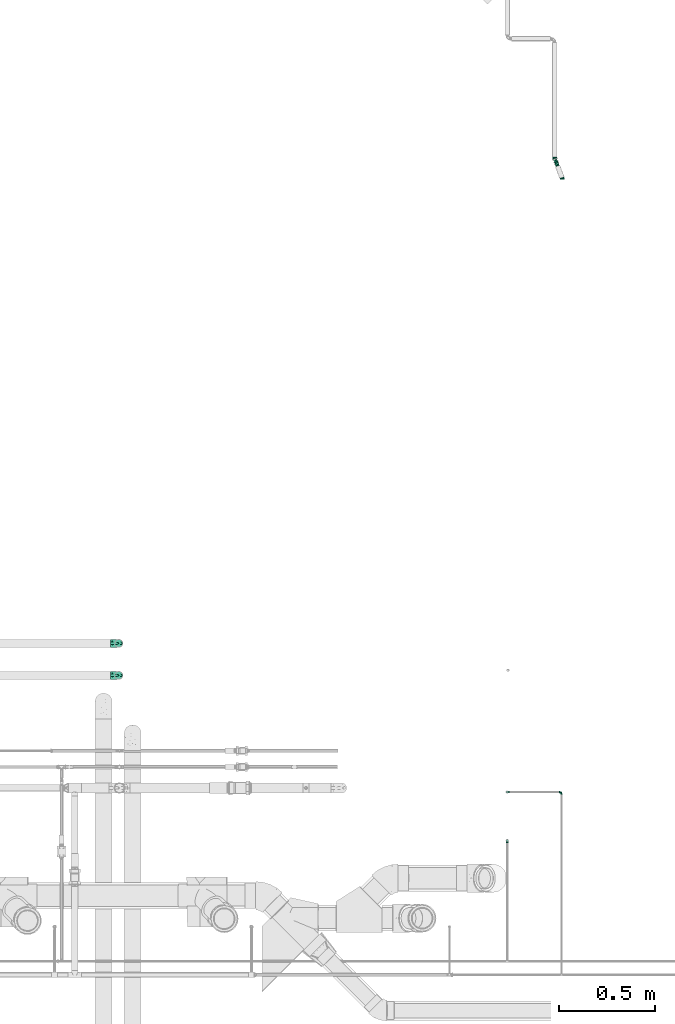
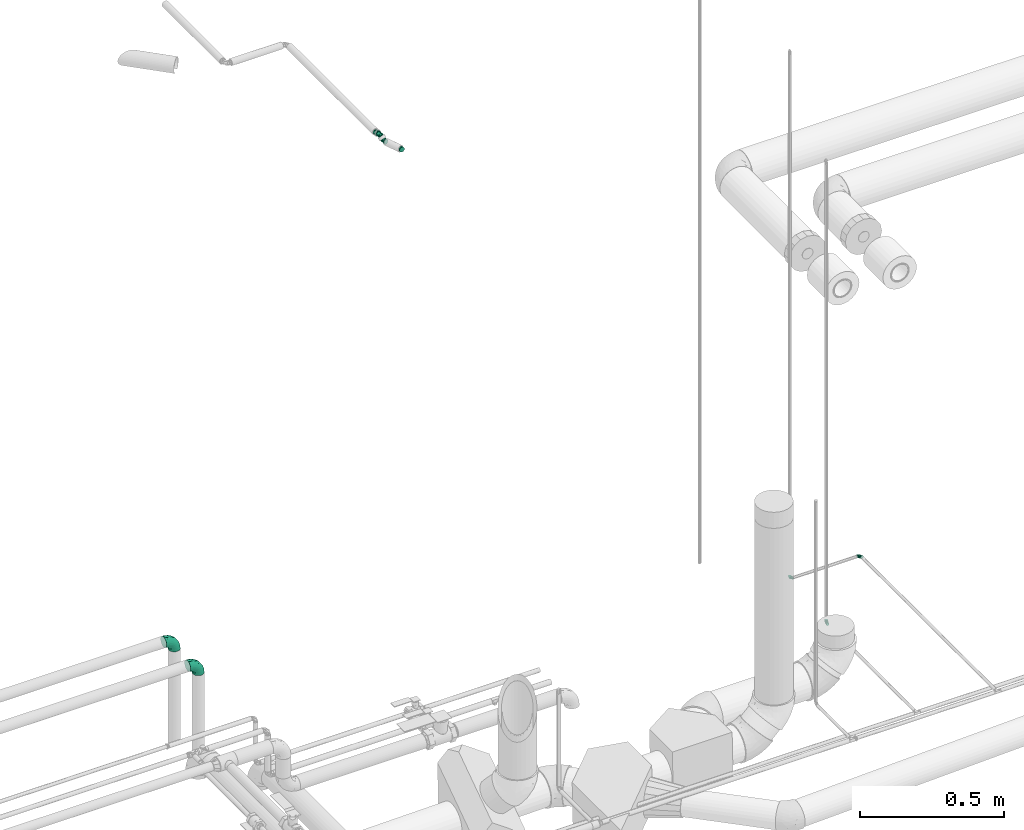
# One storey, part 96 of 156: 9 flow fittings.
"""IFC2X3 building model written with IfcOpenShell, lengths in millimetres."""

from ifc_helpers import new_model, entity, si_unit, converted_unit, derived_unit, direction, frame, origin_with_axes, place, context, subcontext, project, spatial, open_shell, surface_model, source, transform, mapped, type_object, element, save


model = new_model("IFC2X3")

# Units and contexts
model_context = context("Model", 3, precision=0.01, world=frame((0.0, 4.29681676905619e-09, 0.0)), true_north=direction((4.01073788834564e-13, 1.0)))
plan_context = context("Plan", 3, precision=0.01, world=frame((0.0, 4.29681676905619e-09, 0.0)), true_north=direction((4.01073788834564e-13, 1.0)))
body_context = subcontext(model_context, "Body", "Model", "MODEL_VIEW")
ifc_project = project(units=[converted_unit("PLANEANGLEUNIT", "DEGREE", entity("IfcPositiveLengthMeasure", 0.0174532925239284), si_unit("PLANEANGLEUNIT", "RADIAN"), dimensions=[0, 0, 0, 0, 0, 0, 0]), si_unit("AREAUNIT", "SQUARE_METRE"), si_unit("LENGTHUNIT", "METRE", prefix="MILLI"), si_unit("MASSUNIT", "GRAM", prefix="KILO"), si_unit("POWERUNIT", "WATT"), si_unit("PRESSUREUNIT", "PASCAL", prefix="KILO"), si_unit("FORCEUNIT", "NEWTON", prefix="KILO"), si_unit("ELECTRICVOLTAGEUNIT", "VOLT"), si_unit("ELECTRICCURRENTUNIT", "AMPERE"), si_unit("THERMODYNAMICTEMPERATUREUNIT", "DEGREE_CELSIUS"), si_unit("TIMEUNIT", "SECOND"), si_unit("VOLUMEUNIT", "CUBIC_METRE"), derived_unit("LINEARVELOCITYUNIT", [(si_unit("LENGTHUNIT", "METRE"), 1), (si_unit("TIMEUNIT", "SECOND"), -1)]), derived_unit("VOLUMETRICFLOWRATEUNIT", [(si_unit("VOLUMEUNIT", "CUBIC_METRE"), 1), (si_unit("TIMEUNIT", "SECOND"), -1)]), derived_unit("THERMALTRANSMITTANCEUNIT", [(si_unit("POWERUNIT", "WATT"), 1), (si_unit("THERMODYNAMICTEMPERATUREUNIT", "KELVIN"), -1), (si_unit("AREAUNIT", "SQUARE_METRE"), -1)]), derived_unit("SOUNDPRESSUREUNIT", [(si_unit("PRESSUREUNIT", "PASCAL"), 1)])], contexts=[model_context, plan_context])

# Site, building, storey
site_placement = place(None, frame((0.0, -4.29681676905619e-09, 0.0), z_axis=(0.0, 0.0, 1.0), x_axis=(1.0, 0.0, 0.0)))
site = spatial("IfcSite", under=ifc_project, at=site_placement, CompositionType="ELEMENT")
building_placement = place(site_placement, frame((0.0, 4.29681676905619e-09, 0.0), z_axis=(0.0, 0.0, 1.0), x_axis=(1.0, 0.0, 0.0)))
building = spatial("IfcBuilding", under=site, at=building_placement, Name="mc-building", CompositionType="ELEMENT")
storey_placement = place(building_placement, frame((0.0, 0.0, 205200.0), z_axis=(0.0, 0.0, 1.0), x_axis=(1.0, 0.0, 0.0)))
storey = spatial("IfcBuildingStorey", under=building, at=storey_placement, Name="Nivå D + 1,2 m", CompositionType="ELEMENT", Elevation=205200.0)

# Flow fittings
pipe_fitting_type_1 = type_object("IfcPipeFittingType", Name="magi_pipe_fe_elbow_short_001", PredefinedType="BEND")
shared_shape_1 = source(origin_with_axes(), body_context, "Body", "SurfaceModel", [
    surface_model("IfcShellBasedSurfaceModel", [(-42.4, 10.6, -18.35974), (-42.4, 5.48696, -20.47763), (-42.4, 0.0, -21.2), (-42.4, 14.99066, -14.99066), (-42.4, 20.47763, -5.48696), (-42.4, 18.35974, -10.6), (-42.4, -14.99066, 14.99066), (-42.4, -21.2, 0.0), (-42.4, -10.6, -18.35974), (-42.4, -14.99066, -14.99066), (-42.4, -5.48696, -20.47763), (-42.4, -18.35974, -10.6), (-42.4, -20.47763, -5.48696), (-42.4, 10.6, 18.35974), (-42.4, 20.47763, 5.48696), (-42.4, 18.35974, 10.6), (-42.4, 14.99066, 14.99066), (-42.4, 5.48696, 20.47763), (-42.4, 0.0, 21.2), (-42.4, -20.47763, 5.48696), (-42.4, -18.35974, 10.6), (-42.4, -10.6, 18.35974), (-42.4, -5.48696, 20.47763), (-42.4, 21.2, 0.0), (0.0, 42.4, -21.2), (-5.48696, 42.4, -20.47763), (-10.6, 42.4, -18.35974), (-14.99066, 42.4, -14.99066), (-18.35974, 42.4, -10.6), (-20.47763, 42.4, -5.48696), (21.2, 42.4, 0.0), (5.48696, 42.4, -20.47763), (14.99066, 42.4, -14.99066), (10.6, 42.4, -18.35974), (18.35974, 42.4, -10.6), (20.47763, 42.4, -5.48696), (14.99066, 42.4, 14.99066), (-20.47763, 42.4, 5.48696), (-10.6, 42.4, 18.35974), (-14.99066, 42.4, 14.99066), (-18.35974, 42.4, 10.6), (-5.48696, 42.4, 20.47763), (0.0, 42.4, 21.2), (18.35974, 42.4, 10.6), (20.47763, 42.4, 5.48696), (5.48696, 42.4, 20.47763), (10.6, 42.4, 18.35974), (-21.2, 42.4, 0.0), (-31.10239, -16.47009, 11.90111), (-27.83957, -12.231, 15.79732), (-30.23067, -18.77937, 0.0), (-18.74048, -13.50096, 10.69998), (-28.17586, -18.50359, 6.61185), (18.50359, 28.17586, 6.61185), (14.95929, 16.60735, 5.43468), (16.35874, 18.06133, 0.0), (-20.72313, 33.83635, 9.21426), (-17.70981, 33.00599, 13.92769), (-31.16033, -8.01664, 19.07348), (-32.38682, -2.80842, 20.83743), (-29.68688, 3.24967, 21.16387), (-7.74467, -9.46536, 0.0), (-16.60735, -14.95929, 5.43468), (-18.06133, -16.35874, 0.0), (-16.37932, -5.14532, 17.61254), (-21.10659, -0.19025, 20.54817), (-1.82445, -3.58377, 9.55223), (-0.35533, 0.43745, 12.66367), (-7.20655, -5.07682, 13.06146), (-33.14056, 17.6728, 13.91288), (-7.36799, 20.84806, 21.16196), (-15.70315, 15.70315, 20.68489), (-12.62356, 9.26422, 21.0908), (-36.67879, 12.83836, 17.27427), (-7.91358, 36.5686, 19.85759), (-2.90555, 31.71221, 21.14793), (-33.84689, 20.71971, 9.21285), (-33.51649, 22.58113, 4.66115), (-26.3226, 26.3226, 7.92474), (-32.67995, 8.31454, 20.02643), (-5.53379, 14.19921, 20.81623), (-10.53385, 3.88918, 19.79653), (-2.16577, 11.45378, 19.48254), (-3.78693, 3.78693, 17.3328), (12.231, 27.83957, 15.79732), (13.50096, 18.74047, 10.69998), (16.47009, 31.10239, 11.90111), (-22.53806, 14.38475, 19.60876), (-23.29615, 9.08095, 20.82061), (2.80842, 32.38682, 20.83743), (8.01664, 31.16033, 19.07348), (5.14532, 16.37932, 17.61254), (18.77937, 30.23067, 0.0), (-20.80278, 5.19491, 21.19095), (-19.62579, 22.38752, 17.42006), (-29.19336, 14.39093, 17.85259), (-22.31569, 34.20044, 4.54807), (-26.56962, 27.80621, 3.73106), (9.67657, 17.17133, 14.49993), (-24.04026, 31.8, 0.0), (-9.16861, 28.72652, 20.19004), (-12.09761, 21.9456, 20.37969), (-15.36991, 27.40112, 17.818), (-16.88976, 20.52477, 19.2896), (-12.95169, 35.54896, 17.36222), (-17.17133, -9.67657, 14.49993), (-21.98655, 28.10245, 11.99898), (-22.34699, 23.67592, 15.01692), (-27.22822, 22.77969, 11.82161), (0.19025, 21.10658, 20.54817), (4.8276, 7.36347, 13.42842), (-10.06209, -9.46364, 9.95114), (1.25876, -2.7536, 5.73797), (6.43781, 3.77591, 7.40371), (6.57528, 2.20066, 3.17705), (10.91934, 8.84313, 5.00748), (10.64415, 10.99764, 8.89767), (-31.8, 24.04026, 0.0), (-5.71381, -8.43063, 6.15529), (2.57199, -2.57199, 0.0), (9.46536, 7.74467, 0.0), (-17.17133, -9.67657, -14.49993), (-27.83957, -12.231, -15.79732), (-16.37932, -5.14532, -17.61254), (-18.74048, -13.50096, -10.69998), (-33.00599, 17.70981, -13.92769), (-35.54896, 12.95169, -17.36222), (-34.20044, 22.31569, -4.54807), (-28.17586, -18.50359, -6.61185), (-26.3226, 26.3226, -7.92474), (-33.83635, 20.72313, -9.21426), (-16.60735, -14.95929, -5.43468), (-20.52477, 16.88976, -19.2896), (-21.9456, 12.0976, -20.37969), (-27.40112, 15.36991, -17.818), (-12.83836, 36.67879, -17.27427), (-17.6728, 33.14056, -13.91288), (8.01664, 31.16033, -19.07348), (5.14532, 16.37932, -17.61254), (0.19025, 21.10658, -20.54817), (-36.5686, 7.91358, -19.85759), (-31.10239, -16.47009, -11.90111), (-31.16033, -8.01664, -19.07348), (-14.38475, 22.53806, -19.60876), (-8.31454, 32.67995, -20.02643), (-9.08095, 23.29615, -20.82061), (-32.38682, -2.80842, -20.83743), (-20.84806, 7.36799, -21.16196), (-15.70315, 15.70314, -20.68489), (-9.26422, 12.62356, -21.0908), (-31.71221, 2.90555, -21.14793), (-22.58113, 33.51649, -4.66115), (-20.71971, 33.84689, -9.21285), (-28.72652, 9.16861, -20.19004), (-27.80621, 26.56962, -3.73106), (-5.19491, 20.80278, -21.19095), (-22.38752, 19.62579, -17.42006), (-14.39093, 29.19336, -17.85259), (2.80842, 32.38682, -20.83743), (-3.24967, 29.68688, -21.16387), (16.47009, 31.10239, -11.90111), (12.231, 27.83957, -15.79732), (6.57528, 2.20067, -3.17705), (10.91934, 8.84313, -5.00749), (-14.19921, 5.53379, -20.81623), (-3.88918, 10.53385, -19.79653), (-11.45378, 2.16577, -19.48254), (1.25876, -2.7536, -5.73797), (-5.71381, -8.43063, -6.15529), (-1.82445, -3.58377, -9.55223), (13.50096, 18.74048, -10.69998), (18.50359, 28.17586, -6.61185), (14.95929, 16.60735, -5.43468), (-28.10245, 21.98655, -11.99898), (9.67657, 17.17133, -14.49993), (10.64415, 10.99764, -8.89767), (4.8276, 7.36347, -13.42842), (-23.67592, 22.34699, -15.01692), (-22.77969, 27.22822, -11.82161), (-21.10658, -0.19025, -20.54817), (-3.78693, 3.78693, -17.3328), (-7.20655, -5.07682, -13.06146), (-10.06209, -9.46364, -9.95113), (-0.35533, 0.43745, -12.66367), (6.43781, 3.77591, -7.40371)], [open_shell([[[0, 1, 2]], [[3, 0, 2]], [[4, 5, 3]], [[2, 4, 3]], [[6, 2, 7]], [[8, 9, 10]], [[11, 10, 9]], [[12, 7, 11]], [[2, 10, 11]], [[11, 7, 2]], [[6, 4, 2]], [[13, 14, 4]], [[15, 14, 16]], [[4, 6, 13]], [[16, 14, 13]], [[17, 13, 18]], [[19, 20, 7]], [[7, 20, 6]], [[21, 22, 6]], [[18, 6, 22]], [[6, 18, 13]], [[23, 4, 14]], [[24, 25, 26]], [[24, 26, 27]], [[27, 28, 29]], [[27, 29, 24]], [[24, 29, 30]], [[31, 32, 33]], [[31, 24, 32]], [[34, 30, 35]], [[32, 24, 34]], [[24, 30, 34]], [[29, 36, 30]], [[29, 37, 38]], [[39, 37, 40]], [[36, 29, 38]], [[38, 37, 39]], [[41, 42, 38]], [[30, 43, 44]], [[36, 43, 30]], [[36, 45, 46]], [[45, 36, 42]], [[38, 42, 36]], [[37, 29, 47]], [[6, 48, 49]], [[19, 7, 50]], [[51, 48, 52]], [[53, 54, 55]], [[48, 6, 20]], [[19, 52, 20]], [[40, 56, 57]], [[49, 21, 6]], [[49, 58, 21]], [[18, 59, 60]], [[61, 62, 63]], [[58, 64, 65]], [[66, 67, 68]], [[15, 16, 69]], [[70, 71, 72]], [[13, 73, 16]], [[22, 59, 18]], [[41, 74, 75]], [[18, 60, 17]], [[15, 69, 76]], [[16, 73, 69]], [[23, 14, 77]], [[14, 15, 76]], [[77, 76, 78]], [[17, 79, 13]], [[80, 81, 82]], [[68, 83, 64]], [[84, 36, 46]], [[85, 86, 84]], [[87, 79, 88]], [[21, 58, 22]], [[42, 89, 45]], [[53, 44, 43]], [[42, 41, 75]], [[84, 90, 91]], [[43, 86, 53]], [[92, 44, 53]], [[86, 43, 36]], [[90, 46, 45]], [[53, 55, 92]], [[88, 93, 72]], [[54, 53, 85]], [[87, 94, 95]], [[78, 96, 97]], [[98, 84, 91]], [[99, 96, 47]], [[79, 17, 60]], [[96, 78, 56]], [[62, 52, 63]], [[57, 39, 40]], [[100, 70, 75]], [[101, 102, 103]], [[19, 50, 52]], [[104, 38, 39]], [[74, 41, 38]], [[57, 102, 104]], [[105, 64, 49]], [[90, 84, 46]], [[40, 37, 56]], [[56, 106, 57]], [[102, 57, 107]], [[95, 107, 69]], [[76, 108, 78]], [[100, 101, 70]], [[89, 75, 109]], [[64, 58, 49]], [[63, 52, 50]], [[59, 58, 65]], [[105, 49, 51]], [[64, 83, 81]], [[89, 90, 45]], [[30, 44, 92]], [[109, 82, 91]], [[109, 91, 90]], [[91, 83, 110]], [[111, 68, 105]], [[66, 68, 111]], [[62, 51, 52]], [[66, 112, 113]], [[114, 115, 113]], [[98, 85, 84]], [[52, 48, 20]], [[49, 48, 51]], [[84, 86, 36]], [[53, 86, 85]], [[88, 79, 60]], [[73, 79, 95]], [[96, 56, 37]], [[78, 108, 106]], [[87, 103, 94]], [[100, 74, 104]], [[108, 69, 107]], [[78, 97, 77]], [[88, 72, 71]], [[109, 75, 70]], [[81, 72, 65]], [[70, 72, 80]], [[75, 89, 42]], [[90, 89, 109]], [[58, 59, 22]], [[60, 59, 65]], [[67, 83, 68]], [[110, 113, 116]], [[88, 60, 93]], [[87, 88, 71]], [[103, 87, 71]], [[79, 87, 95]], [[101, 103, 71]], [[94, 103, 102]], [[47, 96, 37]], [[96, 99, 97]], [[99, 117, 97]], [[97, 117, 77]], [[23, 77, 117]], [[14, 76, 77]], [[60, 65, 93]], [[65, 72, 93]], [[70, 101, 71]], [[102, 101, 100]], [[69, 108, 76]], [[106, 108, 107]], [[57, 106, 107]], [[78, 106, 56]], [[57, 104, 39]], [[100, 104, 102]], [[102, 107, 94]], [[95, 94, 107]], [[64, 81, 65]], [[82, 81, 83]], [[91, 82, 83]], [[80, 82, 109]], [[70, 80, 109]], [[81, 80, 72]], [[79, 73, 13]], [[69, 73, 95]], [[104, 74, 38]], [[75, 74, 100]], [[62, 61, 118]], [[111, 62, 118]], [[113, 115, 116]], [[119, 118, 61]], [[111, 105, 51]], [[113, 112, 114]], [[120, 55, 54]], [[68, 64, 105]], [[91, 110, 98]], [[116, 98, 110]], [[62, 111, 51]], [[66, 111, 118]], [[112, 66, 118]], [[67, 113, 110]], [[118, 119, 112]], [[114, 112, 119]], [[119, 120, 114]], [[115, 120, 54]], [[120, 115, 114]], [[116, 54, 85]], [[54, 116, 115]], [[116, 85, 98]], [[113, 67, 66]], [[83, 67, 110]], [[121, 122, 123]], [[122, 121, 124]], [[5, 125, 3]], [[3, 126, 0]], [[117, 127, 23]], [[50, 12, 128]], [[127, 129, 130]], [[128, 131, 63]], [[132, 133, 134]], [[27, 135, 136]], [[137, 138, 139]], [[0, 140, 1]], [[128, 11, 141]], [[142, 8, 10]], [[128, 63, 50]], [[5, 4, 130]], [[11, 9, 141]], [[143, 144, 145]], [[146, 10, 2]], [[147, 148, 149]], [[11, 128, 12]], [[124, 141, 122]], [[150, 2, 1]], [[151, 152, 129]], [[125, 134, 126]], [[153, 147, 150]], [[127, 154, 129]], [[145, 155, 149]], [[47, 29, 151]], [[143, 156, 157]], [[152, 29, 28]], [[24, 158, 159]], [[122, 9, 8]], [[27, 26, 135]], [[144, 26, 25]], [[32, 160, 161]], [[24, 31, 158]], [[120, 162, 163]], [[130, 125, 5]], [[27, 136, 28]], [[1, 140, 150]], [[33, 161, 137]], [[142, 122, 8]], [[24, 159, 25]], [[164, 165, 166]], [[167, 168, 169]], [[34, 160, 32]], [[161, 33, 32]], [[170, 160, 171]], [[131, 128, 124]], [[30, 92, 35]], [[35, 92, 171]], [[172, 171, 55]], [[35, 171, 34]], [[144, 25, 159]], [[130, 173, 125]], [[174, 175, 176]], [[136, 152, 28]], [[33, 137, 31]], [[122, 142, 123]], [[134, 125, 177]], [[157, 177, 136]], [[152, 178, 129]], [[153, 133, 147]], [[146, 150, 179]], [[146, 142, 10]], [[7, 12, 50]], [[179, 166, 123]], [[179, 123, 142]], [[123, 180, 181]], [[138, 137, 161]], [[55, 171, 92]], [[158, 137, 139]], [[174, 161, 170]], [[138, 180, 165]], [[180, 138, 176]], [[124, 121, 182]], [[176, 183, 180]], [[61, 131, 168]], [[169, 168, 182]], [[172, 170, 171]], [[122, 141, 9]], [[128, 141, 124]], [[171, 160, 34]], [[161, 160, 170]], [[145, 144, 159]], [[135, 144, 157]], [[127, 130, 4]], [[129, 178, 173]], [[143, 132, 156]], [[153, 140, 126]], [[178, 136, 177]], [[129, 154, 151]], [[145, 149, 148]], [[179, 150, 147]], [[165, 149, 139]], [[147, 149, 164]], [[150, 146, 2]], [[142, 146, 179]], [[137, 158, 31]], [[159, 158, 139]], [[174, 138, 161]], [[184, 169, 183]], [[145, 159, 155]], [[143, 145, 148]], [[132, 143, 148]], [[144, 143, 157]], [[133, 132, 148]], [[156, 132, 134]], [[23, 127, 4]], [[127, 117, 154]], [[117, 99, 154]], [[154, 99, 151]], [[47, 151, 99]], [[29, 152, 151]], [[159, 139, 155]], [[139, 149, 155]], [[147, 133, 148]], [[134, 133, 153]], [[136, 178, 152]], [[173, 178, 177]], [[125, 173, 177]], [[129, 173, 130]], [[125, 126, 3]], [[153, 126, 134]], [[134, 177, 156]], [[157, 156, 177]], [[138, 165, 139]], [[166, 165, 180]], [[123, 166, 180]], [[164, 166, 179]], [[147, 164, 179]], [[165, 164, 149]], [[144, 135, 26]], [[136, 135, 157]], [[126, 140, 0]], [[150, 140, 153]], [[182, 131, 124]], [[168, 119, 61]], [[119, 167, 162]], [[63, 131, 61]], [[172, 163, 175]], [[172, 55, 120]], [[123, 181, 121]], [[182, 121, 181]], [[175, 174, 170]], [[176, 138, 174]], [[169, 182, 181]], [[131, 182, 168]], [[183, 169, 181]], [[167, 169, 184]], [[162, 167, 184]], [[119, 168, 167]], [[163, 162, 184]], [[120, 119, 162]], [[175, 163, 184]], [[120, 163, 172]], [[176, 175, 184]], [[172, 175, 170]], [[180, 183, 181]], [[184, 183, 176]]])]),
])
for number, where, z_axis, x_axis, name in (
    (1, (326963.30442, 463869.78191, 4303.5), (0.0, -1.0, 0.0), (0.0, 0.0, 1.0), "magi_pipe_fe_elbow_short_001"),
    (2, (326963.30442, 464036.1423, 4303.5), (0.0, -1.0, 0.0), (0.0, 0.0, 1.0), "magi_pipe_fe_elbow_short_001"),
):
    element("IfcFlowFitting", number, at=place(storey_placement, frame(where, z_axis=z_axis, x_axis=x_axis)), inside=storey, type_object=pipe_fitting_type_1, Name=name, context=body_context, shape_type="MappedRepresentation", body=[
        mapped(shared_shape_1, transform((0.0, 0.0, 0.0), scale=1.0)),
    ])
pipe_fitting_type_2 = type_object("IfcPipeFittingType", Name="magi_pipe_elbow_short_001", PredefinedType="BEND")
shared_shape_2 = source(origin_with_axes(), body_context, "Body", "SurfaceModel", [
    surface_model("IfcShellBasedSurfaceModel", [(-12.0, 0.0, -6.0), (-12.0, -5.19615, -3.0), (-12.0, 1.55291, -5.79555), (-12.0, 5.79555, -1.55291), (-12.0, -5.79555, -1.55291), (-12.0, -6.0, 0.0), (-12.0, -1.55291, 5.79555), (-12.0, 0.0, 6.0), (-12.0, -3.0, 5.19615), (-12.0, 3.0, -5.19615), (-12.0, 5.19615, -3.0), (-12.0, 4.24264, -4.24264), (-12.0, -3.0, -5.19615), (-12.0, -4.24264, -4.24264), (-12.0, -1.55291, -5.79555), (-12.0, 6.0, 0.0), (-12.0, -4.24264, 4.24264), (-12.0, 5.79555, 1.55291), (-12.0, 5.19615, 3.0), (-12.0, 4.24264, 4.24264), (-12.0, 1.55291, 5.79555), (-12.0, 3.0, 5.19615), (-12.0, -5.79555, 1.55291), (-12.0, -5.19615, 3.0), (-1.55291, 12.0, -5.79555), (5.19615, 12.0, -3.0), (0.0, 12.0, -6.0), (-5.79555, 12.0, -1.55291), (-3.0, 12.0, -5.19615), (-4.24264, 12.0, -4.24264), (-5.19615, 12.0, -3.0), (-1.55291, 12.0, 5.79555), (1.55291, 12.0, -5.79555), (4.24264, 12.0, -4.24264), (3.0, 12.0, -5.19615), (6.0, 12.0, 0.0), (5.79555, 12.0, -1.55291), (4.24264, 12.0, 4.24264), (-5.19615, 12.0, 3.0), (-5.79555, 12.0, 1.55291), (-4.24264, 12.0, 4.24264), (-3.0, 12.0, 5.19615), (5.19615, 12.0, 3.0), (5.79555, 12.0, 1.55291), (3.0, 12.0, 5.19615), (0.0, 12.0, 6.0), (1.55291, 12.0, 5.79555), (-6.0, 12.0, 0.0), (-2.67965, 2.67964, 5.88263), (-6.5981, -3.76246, 0.0), (0.72792, -0.72792, 0.0), (3.76246, 6.5981, 0.0), (-7.75736, 7.75736, 0.0), (-2.67964, 2.67964, -5.88263)], [open_shell([[[0, 1, 2]], [[3, 2, 1]], [[4, 5, 1]], [[6, 7, 8]], [[9, 2, 3]], [[3, 10, 11]], [[9, 3, 11]], [[12, 13, 14]], [[1, 14, 13]], [[0, 14, 1]], [[1, 5, 3]], [[5, 15, 3]], [[16, 17, 5]], [[18, 17, 19]], [[20, 21, 19]], [[17, 20, 19]], [[20, 17, 8]], [[5, 22, 23]], [[5, 23, 16]], [[17, 16, 8]], [[20, 8, 7]], [[17, 15, 5]], [[24, 25, 26]], [[27, 24, 28]], [[29, 30, 27]], [[29, 27, 28]], [[31, 25, 24]], [[32, 33, 34]], [[33, 32, 25]], [[25, 35, 36]], [[25, 32, 26]], [[25, 37, 35]], [[38, 24, 27]], [[27, 39, 38]], [[24, 38, 31]], [[40, 41, 31]], [[40, 31, 38]], [[37, 25, 31]], [[35, 42, 43]], [[37, 42, 35]], [[44, 45, 46]], [[44, 37, 31]], [[45, 44, 31]], [[27, 47, 39]], [[6, 48, 7]], [[23, 22, 49]], [[16, 23, 49]], [[22, 5, 49]], [[50, 51, 48]], [[8, 49, 48]], [[20, 7, 48]], [[8, 48, 6]], [[42, 51, 43]], [[16, 49, 8]], [[18, 19, 38]], [[48, 19, 21]], [[17, 18, 52]], [[52, 15, 17]], [[52, 18, 38]], [[21, 20, 48]], [[49, 50, 48]], [[44, 46, 48]], [[51, 44, 48]], [[46, 45, 48]], [[35, 43, 51]], [[44, 51, 37]], [[37, 51, 42]], [[38, 39, 52]], [[47, 52, 39]], [[41, 40, 48]], [[40, 19, 48]], [[38, 19, 40]], [[31, 41, 48]], [[45, 31, 48]], [[9, 53, 2]], [[2, 53, 0]], [[52, 10, 3]], [[50, 49, 53]], [[11, 29, 53]], [[1, 49, 4]], [[11, 10, 29]], [[9, 11, 53]], [[49, 5, 4]], [[1, 13, 49]], [[14, 53, 12]], [[49, 13, 12]], [[12, 53, 49]], [[0, 53, 14]], [[3, 15, 52]], [[52, 47, 27]], [[52, 27, 30]], [[29, 10, 30]], [[32, 53, 26]], [[53, 28, 24]], [[36, 35, 51]], [[53, 29, 28]], [[26, 53, 24]], [[53, 34, 51]], [[51, 34, 33]], [[25, 36, 51]], [[51, 50, 53]], [[51, 33, 25]], [[34, 53, 32]], [[30, 10, 52]]])]),
])
for number, where, z_axis, x_axis, name in (
    (3, (329263.73717, 463263.33804, 4318.0), (0.0, 0.0, 1.0), (0.0, 1.0, 0.0), "magi_pipe_elbow_short_001"),
    (4, (328981.34469, 463263.33804, 4318.0), (0.0, 1.0, 0.0), (-1.0, 0.0, 0.0), "magi_pipe_elbow_short_001"),
):
    element("IfcFlowFitting", number, at=place(storey_placement, frame(where, z_axis=z_axis, x_axis=x_axis)), inside=storey, type_object=pipe_fitting_type_2, Name=name, context=body_context, shape_type="MappedRepresentation", body=[
        mapped(shared_shape_2, transform((0.0, 0.0, 0.0), scale=1.0)),
    ])
shared_shape_3 = source(origin_with_axes(), body_context, "Body", "SurfaceModel", [
    surface_model("IfcShellBasedSurfaceModel", [(-12.0, 0.0, -6.0), (-12.0, -5.19615, -3.0), (-12.0, 1.55291, -5.79555), (-12.0, 5.79555, -1.55291), (-12.0, -5.79555, -1.55291), (-12.0, -6.0, 0.0), (-12.0, -1.55291, 5.79555), (-12.0, 0.0, 6.0), (-12.0, -3.0, 5.19615), (-12.0, 3.0, -5.19615), (-12.0, 5.19615, -3.0), (-12.0, 4.24264, -4.24264), (-12.0, -3.0, -5.19615), (-12.0, -4.24264, -4.24264), (-12.0, -1.55291, -5.79555), (-12.0, 5.19615, 3.0), (-12.0, 5.79555, 1.55291), (-12.0, 4.24264, 4.24264), (-12.0, 1.55291, 5.79555), (-12.0, 3.0, 5.19615), (-12.0, -5.19615, 3.0), (-12.0, -4.24264, 4.24264), (-4.24264, 12.0, -4.24264), (-5.19615, 12.0, -3.0), (-5.79555, 12.0, -1.55291), (1.55291, 12.0, -5.79555), (4.24264, 12.0, -4.24264), (3.0, 12.0, -5.19615), (-4.24264, 12.0, 4.24264), (-3.0, 12.0, 5.19615), (-1.55291, 12.0, 5.79555), (-2.67965, 2.67964, 5.88263), (-12.0, -5.79555, 1.55291), (-6.5981, -3.76246, 0.0), (0.72792, -0.72792, 0.0), (3.76246, 6.5981, 0.0), (5.19615, 12.0, 3.0), (5.79555, 12.0, 1.55291), (-5.19615, 12.0, 3.0), (-7.75736, 7.75736, 0.0), (-12.0, 6.0, 0.0), (3.0, 12.0, 5.19615), (1.55291, 12.0, 5.79555), (0.0, 12.0, 6.0), (6.0, 12.0, 0.0), (4.24264, 12.0, 4.24264), (-5.79555, 12.0, 1.55291), (-6.0, 12.0, 0.0), (-2.67964, 2.67964, -5.88263), (0.0, 12.0, -6.0), (-3.0, 12.0, -5.19615), (-1.55291, 12.0, -5.79555), (5.79555, 12.0, -1.55291), (5.19615, 12.0, -3.0)], [open_shell([[[0, 1, 2]], [[3, 2, 1]], [[4, 5, 1]], [[6, 7, 8]], [[9, 2, 3]], [[3, 10, 11]], [[9, 3, 11]], [[12, 13, 14]], [[1, 14, 13]], [[0, 14, 1]], [[15, 16, 17]], [[18, 19, 17]], [[16, 18, 17]], [[18, 16, 8]], [[5, 20, 21]], [[18, 8, 7]], [[22, 23, 24]], [[25, 26, 27]], [[28, 29, 30]], [[6, 31, 7]], [[20, 32, 33]], [[21, 20, 33]], [[32, 5, 33]], [[34, 35, 31]], [[8, 33, 31]], [[18, 7, 31]], [[8, 31, 6]], [[36, 35, 37]], [[21, 33, 8]], [[15, 17, 38]], [[31, 17, 19]], [[16, 15, 39]], [[39, 40, 16]], [[39, 15, 38]], [[19, 18, 31]], [[33, 34, 31]], [[41, 42, 31]], [[35, 41, 31]], [[42, 43, 31]], [[44, 37, 35]], [[41, 35, 45]], [[45, 35, 36]], [[38, 46, 39]], [[47, 39, 46]], [[29, 28, 31]], [[28, 17, 31]], [[38, 17, 28]], [[30, 29, 31]], [[43, 30, 31]], [[9, 48, 2]], [[2, 48, 0]], [[39, 10, 3]], [[34, 33, 48]], [[11, 22, 48]], [[1, 33, 4]], [[11, 10, 22]], [[9, 11, 48]], [[33, 5, 4]], [[1, 13, 33]], [[14, 48, 12]], [[33, 13, 12]], [[12, 48, 33]], [[0, 48, 14]], [[3, 40, 39]], [[39, 47, 24]], [[39, 24, 23]], [[22, 10, 23]], [[25, 48, 49]], [[48, 50, 51]], [[52, 44, 35]], [[48, 22, 50]], [[49, 48, 51]], [[48, 27, 35]], [[35, 27, 26]], [[53, 52, 35]], [[35, 34, 48]], [[35, 26, 53]], [[27, 48, 25]], [[23, 10, 39]], [[28, 46, 38]], [[28, 30, 46]], [[5, 21, 1]], [[8, 3, 1]], [[3, 8, 16]], [[32, 20, 5]], [[8, 1, 21]], [[40, 3, 16]], [[51, 26, 49]], [[22, 51, 50]], [[51, 22, 47]], [[45, 52, 51]], [[25, 49, 26]], [[26, 52, 53]], [[51, 52, 26]], [[52, 37, 44]], [[24, 47, 22]], [[51, 46, 30]], [[30, 45, 51]], [[37, 45, 36]], [[52, 45, 37]], [[45, 42, 41]], [[42, 45, 43]], [[30, 43, 45]], [[46, 51, 47]]])]),
])
flow_fitting_placement = place(storey_placement, frame((328981.34469, 463011.2286, 4285.29999999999), z_axis=(1.0, 0.0, 0.0), x_axis=(0.0, 1.0, 0.0)))
element("IfcFlowFitting", 5, at=flow_fitting_placement, inside=storey, type_object=pipe_fitting_type_2, Name="magi_pipe_elbow_short_001", context=body_context, shape_type="MappedRepresentation", body=[
    mapped(shared_shape_3, transform((0.0, 0.0, 0.0), scale=1.0)),
])
shared_shape_4 = source(origin_with_axes(), body_context, "Body", "SurfaceModel", [
    surface_model("IfcShellBasedSurfaceModel", [(-3.59398, 2.58819, -9.65926), (-3.59398, 0.0, -10.0), (-3.59398, 7.07107, -7.07107), (-3.59398, 5.0, -8.66025), (-3.59398, 9.65926, -2.58819), (-3.59398, 8.66025, -5.0), (-3.59398, -7.07107, -7.07107), (-3.59398, -10.0, 0.0), (-3.59398, 8.66025, 5.0), (-3.59398, -5.0, -8.66025), (-3.59398, -2.58819, -9.65926), (-3.59398, -9.65926, -2.58819), (-3.59398, -8.66025, -5.0), (-3.59398, 10.0, 0.0), (-3.59398, 9.65926, 2.58819), (-3.59398, -7.07107, 7.07107), (-3.59398, 2.58819, 9.65926), (-3.59398, 5.0, 8.66025), (-3.59398, 7.07107, 7.07107), (-3.59398, -9.65926, 2.58819), (-3.59398, -8.66025, 5.0), (-3.59398, -5.0, 8.66025), (-3.59398, -2.58819, 9.65926), (-3.59398, 0.0, 10.0), (0.9073, 7.87994, -7.07107), (3.36913, 1.25126, -10.0), (2.46804, 3.67753, -9.65926), (1.62835, 5.93845, -8.66025), (0.35401, 9.3697, -5.0), (0.00621, 10.30621, -2.58819), (5.83096, -5.37742, -7.07107), (0.35401, 9.3697, 5.0), (6.85068, -8.12311, 0.0), (4.27022, -1.175, -9.65926), (5.1099, -3.43592, -8.66025), (6.38424, -6.86718, -5.0), (6.73205, -7.80368, -2.58819), (-0.11243, 10.62563, 0.0), (0.00621, 10.30621, 2.58819), (2.46804, 3.67753, 9.65926), (1.62835, 5.93845, 8.66025), (0.9073, 7.87994, 7.07107), (5.1099, -3.43592, 8.66025), (5.83096, -5.37742, 7.07107), (6.38424, -6.86718, 5.0), (6.73205, -7.80368, 2.58819), (4.27022, -1.175, 9.65926), (3.36913, 1.25126, 10.0), (-1.38345, -9.80296, 0.0), (0.97379, -5.419, 8.12748), (-1.82532, 10.15765, 0.0), (1.712, -9.52705, 0.0), (4.70985, -8.708, 0.0), (0.53844, -2.99632, -9.41695)], [open_shell([[[0, 1, 2]], [[3, 0, 2]], [[4, 5, 2]], [[6, 2, 1]], [[2, 7, 8]], [[9, 6, 10]], [[6, 1, 10]], [[11, 7, 12]], [[6, 12, 7]], [[6, 7, 2]], [[13, 4, 2]], [[8, 14, 13]], [[15, 8, 7]], [[8, 16, 17]], [[18, 8, 17]], [[16, 8, 15]], [[19, 20, 7]], [[7, 20, 15]], [[21, 22, 15]], [[22, 16, 15]], [[16, 22, 23]], [[8, 13, 2]], [[24, 25, 26]], [[24, 26, 27]], [[24, 28, 29]], [[25, 24, 30]], [[31, 32, 24]], [[33, 30, 34]], [[33, 25, 30]], [[35, 32, 36]], [[32, 35, 30]], [[24, 32, 30]], [[24, 29, 37]], [[37, 38, 31]], [[39, 32, 31]], [[40, 39, 31]], [[40, 31, 41]], [[32, 39, 42]], [[43, 44, 32]], [[45, 32, 44]], [[39, 46, 42]], [[43, 32, 42]], [[39, 47, 46]], [[37, 31, 24]], [[48, 49, 15]], [[15, 20, 48]], [[22, 21, 49]], [[49, 16, 23]], [[22, 49, 23]], [[15, 49, 21]], [[19, 48, 20]], [[41, 18, 17]], [[31, 8, 18]], [[14, 8, 50]], [[50, 13, 14]], [[50, 8, 31]], [[39, 17, 16]], [[19, 7, 48]], [[49, 48, 51]], [[49, 46, 47]], [[49, 43, 42]], [[49, 47, 39]], [[52, 44, 43]], [[52, 43, 49]], [[45, 52, 32]], [[31, 38, 50]], [[37, 50, 38]], [[44, 52, 45]], [[49, 39, 16]], [[49, 51, 52]], [[18, 41, 31]], [[40, 41, 17]], [[39, 40, 17]], [[49, 42, 46]], [[12, 48, 11]], [[0, 3, 53]], [[0, 53, 1]], [[28, 2, 5]], [[2, 24, 3]], [[4, 50, 5]], [[9, 10, 53]], [[3, 27, 53]], [[48, 7, 11]], [[12, 6, 48]], [[53, 51, 6]], [[51, 48, 6]], [[6, 9, 53]], [[10, 1, 53]], [[4, 13, 50]], [[50, 37, 29]], [[50, 29, 28]], [[27, 3, 24]], [[53, 27, 26]], [[36, 32, 52]], [[2, 28, 24]], [[25, 53, 26]], [[34, 53, 33]], [[51, 53, 30]], [[30, 53, 34]], [[35, 36, 52]], [[51, 30, 52]], [[52, 30, 35]], [[25, 33, 53]], [[28, 5, 50]]])]),
])
for number, where, z_axis, x_axis, name in (
    (6, (329227.77865, 466559.48853, 4122.79999), (0.0, 0.0, 1.0), (0.0, -1.0, 0.0), "magi_pipe_elbow_short_001"),
    (7, (329267.77865, 466451.78524, 4102.79999), (0.0, 0.0, 1.0), (0.0, 1.0, 0.0), "magi_pipe_elbow_short_001"),
):
    element("IfcFlowFitting", number, at=place(storey_placement, frame(where, z_axis=z_axis, x_axis=x_axis)), inside=storey, type_object=pipe_fitting_type_2, Name=name, context=body_context, shape_type="MappedRepresentation", body=[
        mapped(shared_shape_4, transform((0.0, 0.0, 0.0), scale=1.0)),
    ])
shared_shape_5 = source(origin_with_axes(), body_context, "Body", "SurfaceModel", [
    surface_model("IfcShellBasedSurfaceModel", [(-8.28434, 2.58819, -9.65926), (-8.28434, 0.0, -10.0), (-8.28434, 7.07107, -7.07107), (-8.28434, 5.0, -8.66025), (-8.28434, 9.65926, -2.58819), (-8.28434, 8.66025, -5.0), (-8.28434, -7.07107, -7.07107), (-8.28434, -10.0, 0.0), (-8.28434, 8.66025, 5.0), (-8.28434, -5.0, -8.66025), (-8.28434, -2.58819, -9.65926), (-8.28434, -9.65926, -2.58819), (-8.28434, -8.66025, -5.0), (-8.28434, 10.0, 0.0), (-8.28434, 9.65926, 2.58819), (-8.28434, -7.07107, 7.07107), (-8.28434, 2.58819, 9.65926), (-8.28434, 5.0, 8.66025), (-8.28434, 7.07107, 7.07107), (-8.28434, -9.65926, 2.58819), (-8.28434, -8.66025, 5.0), (-8.28434, -5.0, 8.66025), (-8.28434, -2.58819, 9.65926), (-8.28434, 0.0, 10.0), (5.85788, 5.85795, -10.0), (4.02774, 7.68807, -9.65926), (2.32232, 9.39346, -8.66025), (0.85785, 10.85792, -7.07107), (-0.26588, 11.98164, -5.0), (-0.97229, 12.68804, -2.58819), (10.85791, 0.85798, -7.07107), (10.85791, 0.85798, 7.07107), (7.68802, 4.02783, -9.65926), (9.39343, 2.32244, -8.66025), (11.98164, -0.26574, -5.0), (12.92899, -1.21307, 0.0), (12.68805, -0.97214, -2.58819), (-1.21323, 12.92898, 0.0), (-0.97229, 12.68804, 2.58819), (-0.26588, 11.98164, 5.0), (2.32232, 9.39346, 8.66025), (4.02774, 7.68807, 9.65926), (0.85785, 10.85792, 7.07107), (12.68805, -0.97214, 2.58819), (11.98164, -0.26574, 5.0), (7.68802, 4.02783, 9.65926), (9.39343, 2.32244, 8.66025), (5.85788, 5.85795, 10.0), (-3.95325, -9.13849, 0.0), (-2.77392, -5.2659, 8.10324), (0.9749, 5.10051, 9.69325), (-0.75735, 0.65134, 9.97099), (-3.17131, 7.79592, 7.36156), (-6.1188, -9.56924, 0.0), (3.19624, -7.71635, 0.0), (-0.3785, -8.42742, 0.0), (5.45958, -2.43323, 7.75892), (6.22676, -5.6914, 0.0), (-4.45748, 10.76122, 0.0), (9.25728, -3.66646, 0.0), (11.09314, -2.43977, 0.0), (-0.81862, 5.96716, -9.1187), (5.3526, -2.72577, -7.59649), (-1.23717, -1.52023, -9.64394)], [open_shell([[[0, 1, 2]], [[3, 0, 2]], [[4, 5, 2]], [[6, 2, 1]], [[2, 7, 8]], [[9, 6, 10]], [[6, 1, 10]], [[11, 7, 12]], [[6, 12, 7]], [[6, 7, 2]], [[13, 4, 2]], [[8, 14, 13]], [[15, 8, 7]], [[8, 16, 17]], [[18, 8, 17]], [[16, 8, 15]], [[19, 20, 7]], [[7, 20, 15]], [[21, 22, 15]], [[22, 16, 15]], [[16, 22, 23]], [[8, 13, 2]], [[24, 25, 26]], [[24, 26, 27]], [[27, 28, 29]], [[24, 27, 30]], [[30, 27, 31]], [[32, 30, 33]], [[32, 24, 30]], [[34, 35, 36]], [[31, 34, 30]], [[31, 35, 34]], [[27, 29, 31]], [[37, 38, 39]], [[39, 31, 29]], [[40, 41, 39]], [[40, 39, 42]], [[31, 39, 41]], [[43, 31, 44]], [[35, 31, 43]], [[31, 45, 46]], [[31, 41, 45]], [[47, 45, 41]], [[39, 29, 37]], [[15, 48, 21]], [[20, 48, 15]], [[21, 48, 49]], [[39, 50, 42]], [[17, 49, 51]], [[49, 23, 22]], [[52, 50, 39]], [[19, 53, 20]], [[54, 49, 55]], [[54, 56, 51]], [[16, 49, 17]], [[8, 52, 14]], [[19, 7, 53]], [[56, 54, 57]], [[52, 8, 18]], [[58, 13, 14]], [[51, 52, 18]], [[53, 48, 20]], [[23, 49, 16]], [[21, 49, 22]], [[51, 49, 54]], [[47, 56, 45]], [[46, 45, 56]], [[14, 52, 58]], [[41, 56, 47]], [[59, 44, 31]], [[59, 31, 46]], [[43, 60, 35]], [[57, 59, 56]], [[49, 48, 55]], [[58, 52, 37]], [[38, 37, 52]], [[46, 56, 59]], [[52, 39, 38]], [[41, 40, 50]], [[59, 60, 44]], [[42, 50, 40]], [[44, 60, 43]], [[41, 50, 56]], [[50, 52, 51]], [[56, 50, 51]], [[51, 18, 17]], [[61, 62, 63]], [[29, 61, 58]], [[3, 63, 0]], [[0, 63, 1]], [[61, 4, 58]], [[12, 53, 11]], [[48, 10, 55]], [[48, 53, 12]], [[61, 5, 4]], [[26, 25, 61]], [[48, 9, 10]], [[2, 63, 3]], [[53, 7, 11]], [[12, 6, 48]], [[48, 6, 9]], [[63, 54, 55]], [[63, 10, 1]], [[4, 13, 58]], [[58, 37, 29]], [[54, 63, 62]], [[29, 28, 61]], [[27, 26, 61]], [[36, 35, 60]], [[25, 24, 62]], [[60, 59, 34]], [[63, 2, 5]], [[25, 62, 61]], [[63, 55, 10]], [[32, 62, 24]], [[59, 62, 33]], [[5, 61, 63]], [[57, 54, 62]], [[59, 33, 30]], [[36, 60, 34]], [[62, 59, 57]], [[59, 30, 34]], [[33, 62, 32]], [[61, 28, 27]]])]),
])
for number, where, z_axis, x_axis, name in (
    (8, (329233.83787, 466543.1736, 4122.79999), (0.937436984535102, 0.348154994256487, 0.0), (0.348154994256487, -0.937436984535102, 0.0), "magi_pipe_elbow_short_001"),
    (9, (329240.80089, 466524.42509, 4102.79999), (-0.937436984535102, -0.348154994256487, 0.0), (0.246181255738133, -0.662864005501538, -0.707111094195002), "magi_pipe_elbow_short_001"),
):
    element("IfcFlowFitting", number, at=place(storey_placement, frame(where, z_axis=z_axis, x_axis=x_axis)), inside=storey, type_object=pipe_fitting_type_2, Name=name, context=body_context, shape_type="MappedRepresentation", body=[
        mapped(shared_shape_5, transform((0.0, 0.0, 0.0), scale=1.0)),
    ])

save(model, "model.ifc")
